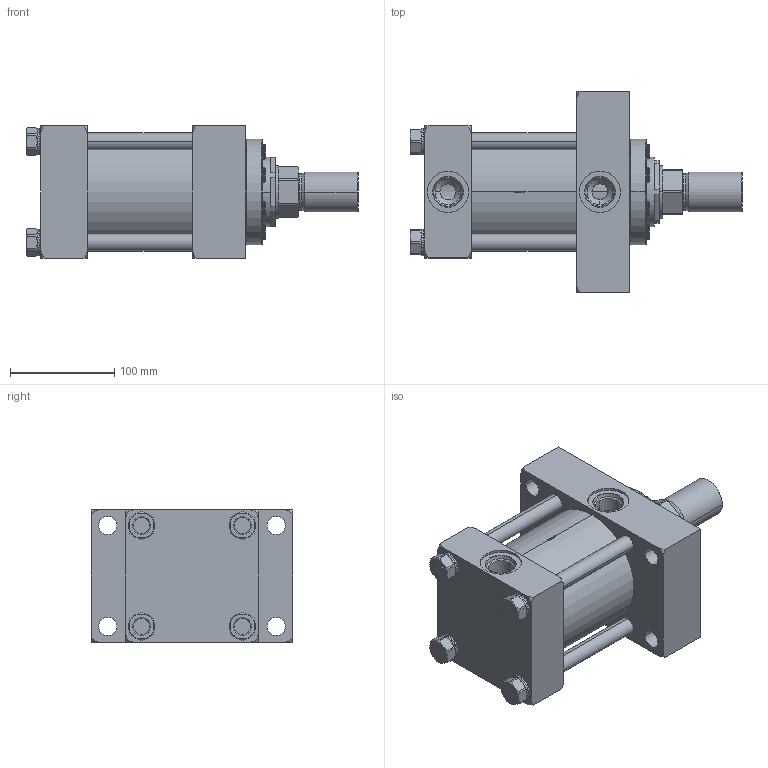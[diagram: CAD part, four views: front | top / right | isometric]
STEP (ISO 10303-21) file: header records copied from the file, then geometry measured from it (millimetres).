
FILE_DESCRIPTION (( 'STEP AP214' ), '1' );
FILE_NAME ('4.00JJ2HHNAT134A2.000.step', '2026-03-26T21:19:10', ( '' ), ( '' ), 'SwSTEP 2.0', 'SolidWorks 2023', '' );
FILE_SCHEMA (( 'AUTOMOTIVE_DESIGN' ));
Length unit declared in the file: inch
Products named in the file (1): 4.00JJ2HHNAT134A2.000
Bounding box: 319.09 x 193.68 x 127 mm (x, y, z)
Volume: 2890666.5 mm3; surface area: 444076.2 mm2
Topology: 40 solids, 40 shells, 1837 faces, 4866 edges, 3120 vertices
Faces by surface type: plane 825, cylinder 753, cone 229, bspline 22, torus 8
Entity records: 84443 total; most frequent: CARTESIAN_POINT 15454, ORIENTED_EDGE 9652, DIRECTION 9136, EDGE_CURVE 4826, AXIS2_PLACEMENT_3D 3538, VERTEX_POINT 3120, VECTOR 2060, LINE 2060
